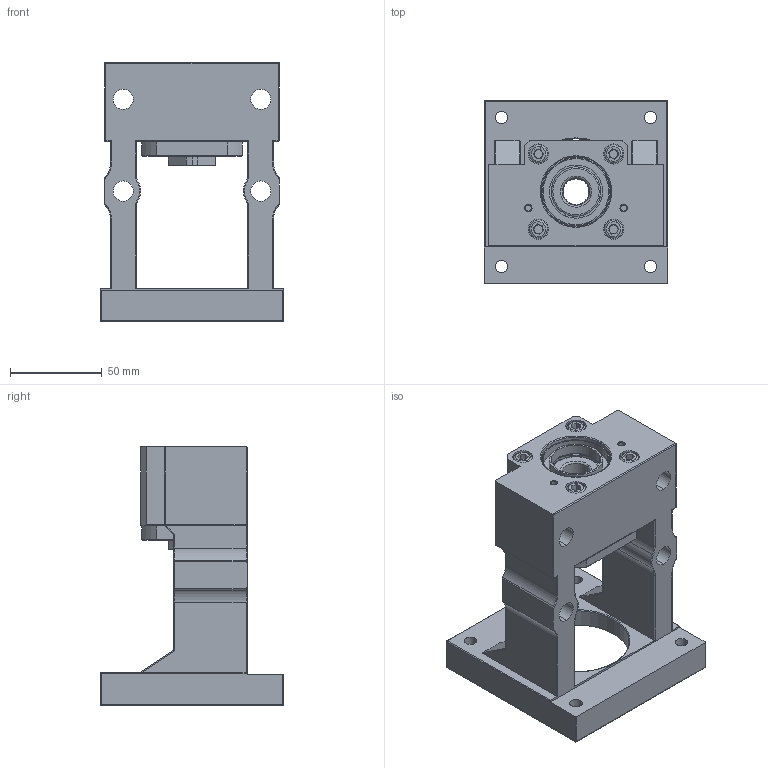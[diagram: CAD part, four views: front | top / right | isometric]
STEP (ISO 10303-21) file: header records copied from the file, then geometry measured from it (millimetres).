
FILE_DESCRIPTION (( 'STEP AP203' ), '1' );
FILE_NAME ('MBCS15-Y.STEP', '2017-12-28T07:48:13', ( '' ), ( '' ), 'SwSTEP 2.0', 'SolidWorks 2017', '' );
FILE_SCHEMA (( 'CONFIG_CONTROL_DESIGN' ));
Length unit declared in the file: millimetre
Products named in the file (1): MBCS15-Y
Bounding box: 100 x 100 x 141 mm (x, y, z)
Surface area: 85775 mm2 (no closed solid volume)
Topology: 0 solids, 22 shells, 354 faces, 904 edges, 566 vertices
Faces by surface type: cylinder 144, plane 98, torus 50, cone 42, sphere 20
Entity records: 10807 total; most frequent: CARTESIAN_POINT 2189, DIRECTION 1946, ORIENTED_EDGE 1619, EDGE_CURVE 866, AXIS2_PLACEMENT_3D 779, VERTEX_POINT 548, CIRCLE 424, EDGE_LOOP 412
